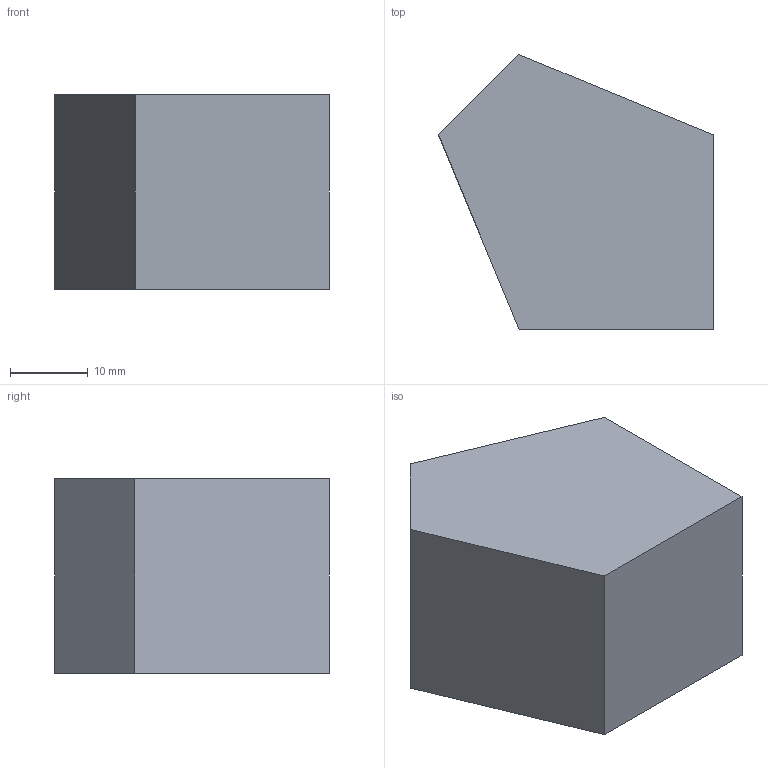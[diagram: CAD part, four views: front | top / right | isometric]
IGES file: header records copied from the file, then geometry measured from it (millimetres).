
Global section: file name: No Iges File Name specified; native system: AutoDesk Inventor R12.0; preprocessor: AutoDesk Inventor Iges Exporter R12.0; date: 20090527.154731; units: millimetre
Bounding box: 35.37 x 35.37 x 25 mm (x, y, z)
Volume: 23451.1 mm3; surface area: 4846.4 mm2
Topology: 1 solids, 1 shells, 7 faces, 15 edges, 10 vertices
Faces by surface type: plane 7
